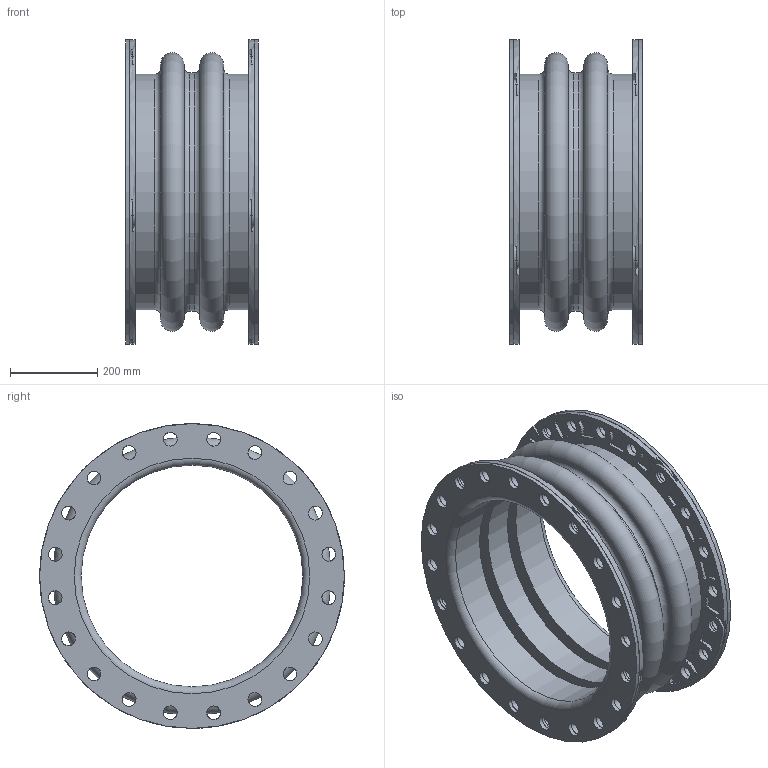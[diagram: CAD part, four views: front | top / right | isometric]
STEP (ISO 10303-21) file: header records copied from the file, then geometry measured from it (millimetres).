
FILE_DESCRIPTION(/* description */ (''),/* implementation_level */ '2;1');
FILE_NAME(/* name */ 'C:\001_Work\Designs\Mercer2014\MQInventor2014\RajR\500 Style\502\STP\502 20IDx12FF.stp',/* time_stamp */ '2016-03-16T15:16:18-04:00',/* author */ ('mquog'),/* organization */ (''),/* preprocessor_version */ 'ST-DEVELOPER v15.2',/* originating_system */ 'Autodesk Inventor 2014',/* authorisation */ '');
FILE_SCHEMA (('AUTOMOTIVE_DESIGN { 1 0 10303 214 3 1 1 }'));
Length unit declared in the file: centimetre
Products named in the file (1): 502 20IDx12FF
Bounding box: 304.8 x 698.5 x 698.5 mm (x, y, z)
Volume: 17870684.8 mm3; surface area: 2939061 mm2
Topology: 3 solids, 3 shells, 622 faces, 1690 edges, 1112 vertices
Faces by surface type: cylinder 458, plane 144, torus 12, cone 8
Full cylindrical faces by diameter (mm): 31.75 x90, 508 x3, 539.75 x2, 546.1 x1, 698.5 x2
Entity records: 20434 total; most frequent: DIRECTION 3810, CARTESIAN_POINT 3287, ORIENTED_EDGE 3124, AXIS2_PLACEMENT_3D 1625, EDGE_CURVE 1562, VERTEX_POINT 1102, CIRCLE 1002, EDGE_LOOP 944
